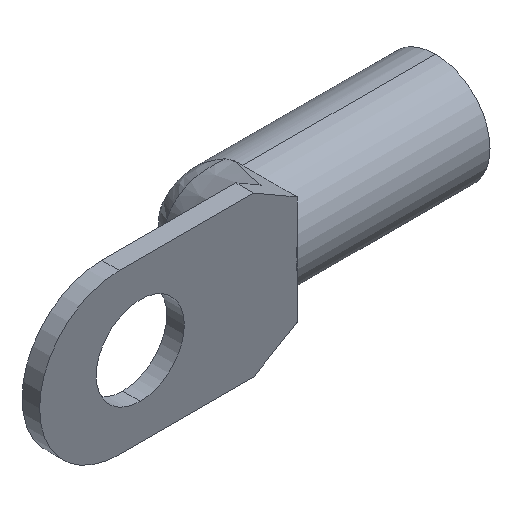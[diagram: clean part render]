
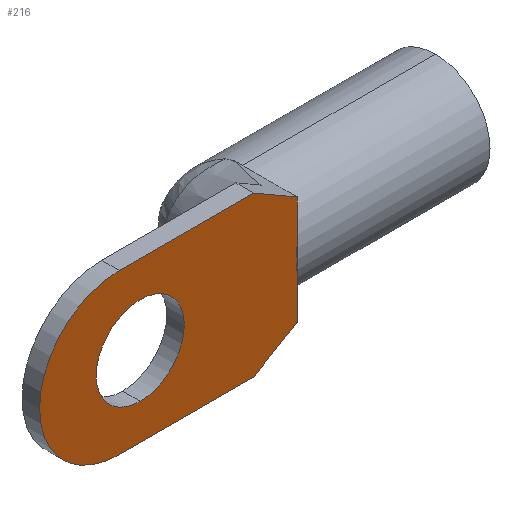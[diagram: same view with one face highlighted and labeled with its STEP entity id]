
A CAD part, isometric view. The second image highlights one B-rep face of the part: STEP entity #216.
In plain terms, the highlighted planar face has unit normal (0, -1, 0).
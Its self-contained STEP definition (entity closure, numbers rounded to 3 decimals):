
#15 = DIRECTION ( 'NONE',  ( 0., 0., 1. ) ) ;
#40 = AXIS2_PLACEMENT_3D ( 'NONE', #411, #911, #486 ) ;
#47 = CARTESIAN_POINT ( 'NONE',  ( -5.196, 0., 9.5 ) ) ;
#57 = CIRCLE ( 'NONE', #895, 9.5 ) ;
#61 = ORIENTED_EDGE ( 'NONE', *, *, #312, .F. ) ;
#68 = DIRECTION ( 'NONE',  ( -0.866, 0., 0.5 ) ) ;
#75 = DIRECTION ( 'NONE',  ( 0., 0., -1. ) ) ;
#93 = AXIS2_PLACEMENT_3D ( 'NONE', #470, #525, #257 ) ;
#99 = ORIENTED_EDGE ( 'NONE', *, *, #785, .T. ) ;
#106 = CARTESIAN_POINT ( 'NONE',  ( -18.7, 0., 5.25 ) ) ;
#137 = FACE_OUTER_BOUND ( 'NONE', #418, .T. ) ;
#150 = CARTESIAN_POINT ( 'NONE',  ( 0., 0., -6.5 ) ) ;
#173 = AXIS2_PLACEMENT_3D ( 'NONE', #915, #493, #75 ) ;
#200 = ORIENTED_EDGE ( 'NONE', *, *, #202, .T. ) ;
#202 = EDGE_CURVE ( 'NONE', #232, #457, #886, .T. ) ;
#212 = CARTESIAN_POINT ( 'NONE',  ( 0., 0., 0. ) ) ;
#216 = ADVANCED_FACE ( 'NONE', ( #137, #513 ), #666, .F. ) ;
#232 = VERTEX_POINT ( 'NONE', #600 ) ;
#257 = DIRECTION ( 'NONE',  ( 0., 0., 1. ) ) ;
#268 = CARTESIAN_POINT ( 'NONE',  ( -21.2, 0., 0. ) ) ;
#276 = VERTEX_POINT ( 'NONE', #106 ) ;
#301 = DIRECTION ( 'NONE',  ( -1., 0., 0. ) ) ;
#303 = VECTOR ( 'NONE', #301, 1000. ) ;
#306 = CIRCLE ( 'NONE', #40, 5.25 ) ;
#312 = EDGE_CURVE ( 'NONE', #276, #699, #306, .T. ) ;
#325 = VECTOR ( 'NONE', #899, 1000. ) ;
#344 = DIRECTION ( 'NONE',  ( 0., 0., 1. ) ) ;
#353 = EDGE_CURVE ( 'NONE', #491, #909, #835, .T. ) ;
#359 = CARTESIAN_POINT ( 'NONE',  ( 0., 0., -6.5 ) ) ;
#372 = CARTESIAN_POINT ( 'NONE',  ( 0., 0., -6.5 ) ) ;
#388 = VERTEX_POINT ( 'NONE', #212 ) ;
#391 = VECTOR ( 'NONE', #649, 1000. ) ;
#403 = VERTEX_POINT ( 'NONE', #847 ) ;
#411 = CARTESIAN_POINT ( 'NONE',  ( -18.7, 0., 0. ) ) ;
#418 = EDGE_LOOP ( 'NONE', ( #776, #695, #629, #524, #714, #200, #99 ) ) ;
#433 = EDGE_CURVE ( 'NONE', #388, #491, #755, .T. ) ;
#457 = VERTEX_POINT ( 'NONE', #852 ) ;
#470 = CARTESIAN_POINT ( 'NONE',  ( 0., 0., 0. ) ) ;
#486 = DIRECTION ( 'NONE',  ( 0., 0., -1. ) ) ;
#491 = VERTEX_POINT ( 'NONE', #723 ) ;
#493 = DIRECTION ( 'NONE',  ( 0., -1., 0. ) ) ;
#513 = FACE_BOUND ( 'NONE', #867, .T. ) ;
#524 = ORIENTED_EDGE ( 'NONE', *, *, #831, .T. ) ;
#525 = DIRECTION ( 'NONE',  ( 0., 1., 0. ) ) ;
#542 = CARTESIAN_POINT ( 'NONE',  ( -5.196, 0., -9.5 ) ) ;
#558 = VECTOR ( 'NONE', #569, 1000. ) ;
#569 = DIRECTION ( 'NONE',  ( 0., 0., 1. ) ) ;
#582 = CARTESIAN_POINT ( 'NONE',  ( -5.196, 0., 9.5 ) ) ;
#600 = CARTESIAN_POINT ( 'NONE',  ( -21.2, 0., -9.5 ) ) ;
#610 = VECTOR ( 'NONE', #68, 1000. ) ;
#622 = EDGE_CURVE ( 'NONE', #811, #232, #57, .T. ) ;
#627 = CARTESIAN_POINT ( 'NONE',  ( -18.7, 0., -5.25 ) ) ;
#629 = ORIENTED_EDGE ( 'NONE', *, *, #353, .T. ) ;
#649 = DIRECTION ( 'NONE',  ( 0.866, 0., 0.5 ) ) ;
#666 = PLANE ( 'NONE',  #93 ) ;
#676 = VECTOR ( 'NONE', #15, 1000. ) ;
#695 = ORIENTED_EDGE ( 'NONE', *, *, #433, .T. ) ;
#696 = LINE ( 'NONE', #372, #676 ) ;
#699 = VERTEX_POINT ( 'NONE', #627 ) ;
#714 = ORIENTED_EDGE ( 'NONE', *, *, #622, .T. ) ;
#723 = CARTESIAN_POINT ( 'NONE',  ( 0., 0., 6.5 ) ) ;
#724 = LINE ( 'NONE', #582, #303 ) ;
#726 = CARTESIAN_POINT ( 'NONE',  ( -21.2, 0., 9.5 ) ) ;
#736 = EDGE_CURVE ( 'NONE', #699, #276, #744, .T. ) ;
#744 = CIRCLE ( 'NONE', #173, 5.25 ) ;
#755 = LINE ( 'NONE', #359, #558 ) ;
#766 = DIRECTION ( 'NONE',  ( 0., -1., 0. ) ) ;
#769 = CARTESIAN_POINT ( 'NONE',  ( 0., 0., 6.5 ) ) ;
#776 = ORIENTED_EDGE ( 'NONE', *, *, #814, .T. ) ;
#785 = EDGE_CURVE ( 'NONE', #457, #403, #883, .T. ) ;
#811 = VERTEX_POINT ( 'NONE', #726 ) ;
#814 = EDGE_CURVE ( 'NONE', #403, #388, #696, .T. ) ;
#831 = EDGE_CURVE ( 'NONE', #909, #811, #724, .T. ) ;
#835 = LINE ( 'NONE', #769, #610 ) ;
#847 = CARTESIAN_POINT ( 'NONE',  ( 0., 0., -6.5 ) ) ;
#852 = CARTESIAN_POINT ( 'NONE',  ( -5.196, 0., -9.5 ) ) ;
#867 = EDGE_LOOP ( 'NONE', ( #922, #61 ) ) ;
#883 = LINE ( 'NONE', #150, #391 ) ;
#886 = LINE ( 'NONE', #542, #325 ) ;
#895 = AXIS2_PLACEMENT_3D ( 'NONE', #268, #766, #344 ) ;
#899 = DIRECTION ( 'NONE',  ( 1., 0., 0. ) ) ;
#909 = VERTEX_POINT ( 'NONE', #47 ) ;
#911 = DIRECTION ( 'NONE',  ( 0., -1., 0. ) ) ;
#915 = CARTESIAN_POINT ( 'NONE',  ( -18.7, 0., 0. ) ) ;
#922 = ORIENTED_EDGE ( 'NONE', *, *, #736, .F. ) ;
